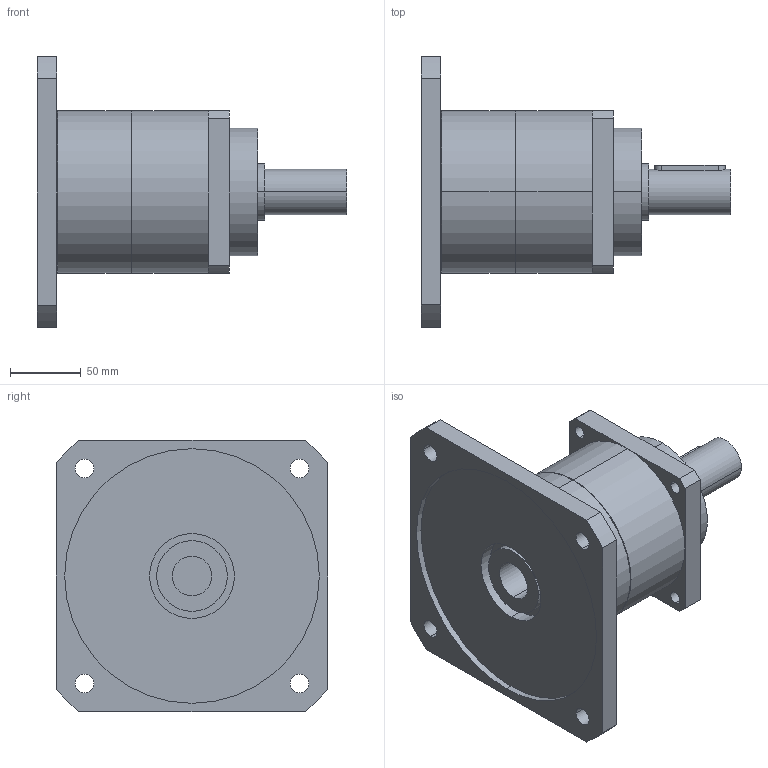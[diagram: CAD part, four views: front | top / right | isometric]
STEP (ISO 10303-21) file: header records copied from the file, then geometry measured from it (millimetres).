
FILE_DESCRIPTION(('CoCreate Modeling STEP Export'),'2;1');
FILE_NAME('GPT120_ig-3-4-5-7-10_32_B5A_28_P09.stp','2015-02-04T17:00:35',(''),(''),'CoCreate Modeling STEP processor for AP214 (Solid Model)','CoCreate Modeling 16.00C 25-Feb-2009 (C) Parametric Technology GmbH','');
FILE_SCHEMA(('AUTOMOTIVE_DESIGN { 1 0 10303 214 1 1 1 1 }'));
Length unit declared in the file: millimetre
Products named in the file (2): GPT120_ig-3-4-5-7-10_32_B5A_28_P09
Assembly tree (1 placements, depth 2):
  GPT120_ig-3-4-5-7-10_32_B5A_28_P09
    GPT120_ig-3-4-5-7-10_32_B5A_28_P09
Bounding box: 219 x 192 x 192 mm (x, y, z)
Volume: 1823847.6 mm3; surface area: 160626.3 mm2
Topology: 1 solids, 1 shells, 77 faces, 204 edges, 139 vertices
Faces by surface type: cylinder 46, plane 27, cone 4
Entity records: 2568 total; most frequent: CARTESIAN_POINT 759, ORIENTED_EDGE 408, DIRECTION 320, EDGE_CURVE 204, VERTEX_POINT 139, AXIS2_PLACEMENT_3D 118, EDGE_LOOP 103, VECTOR 84
